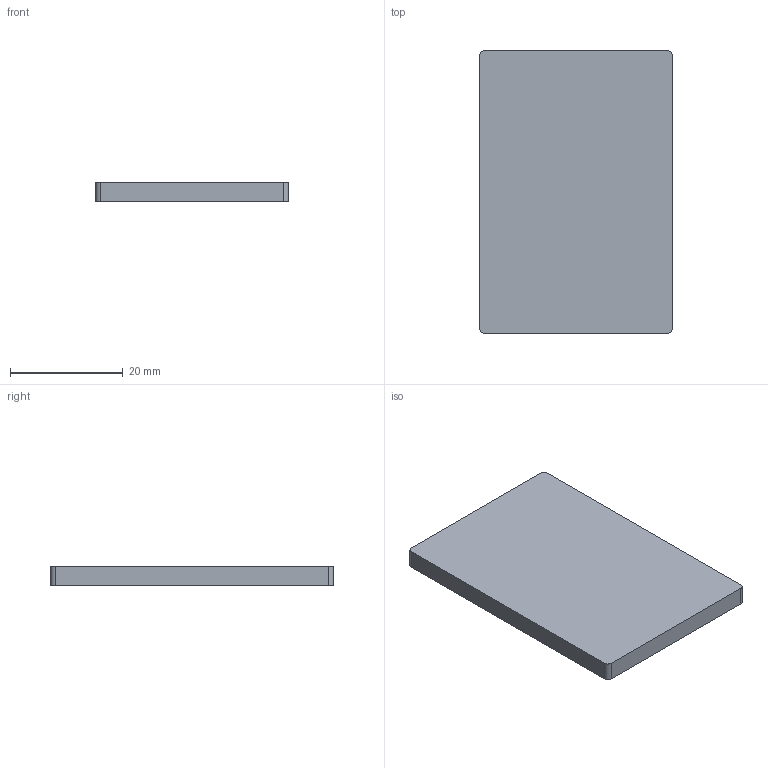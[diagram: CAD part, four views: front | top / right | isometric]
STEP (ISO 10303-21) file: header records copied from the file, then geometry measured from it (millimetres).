
FILE_DESCRIPTION(('Open CASCADE Model'),'2;1');
FILE_NAME('Open CASCADE Shape Model','2026-11-21T21:44:34',('Author'),( 'Open CASCADE'),'Open CASCADE STEP processor 7.9','Open CASCADE 7.9' ,'Unknown');
FILE_SCHEMA(('AUTOMOTIVE_DESIGN { 1 0 10303 214 1 1 1 1 }'));
Length unit declared in the file: millimetre
Products named in the file (1): Open CASCADE STEP translator 7.9 3
Bounding box: 34.2 x 50.2 x 3.4 mm (x, y, z)
Volume: 5835.4 mm3; surface area: 4001.8 mm2
Topology: 1 solids, 1 shells, 10 faces, 24 edges, 16 vertices
Faces by surface type: plane 6, cylinder 4
Entity records: 630 total; most frequent: CARTESIAN_POINT 123, DIRECTION 98, LINE 56, VECTOR 56, ORIENTED_EDGE 48, PCURVE 48, DEFINITIONAL_REPRESENTATION 48, EDGE_CURVE 24
